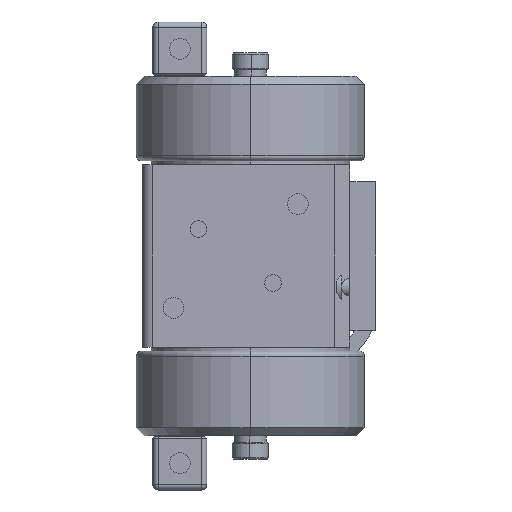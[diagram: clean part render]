
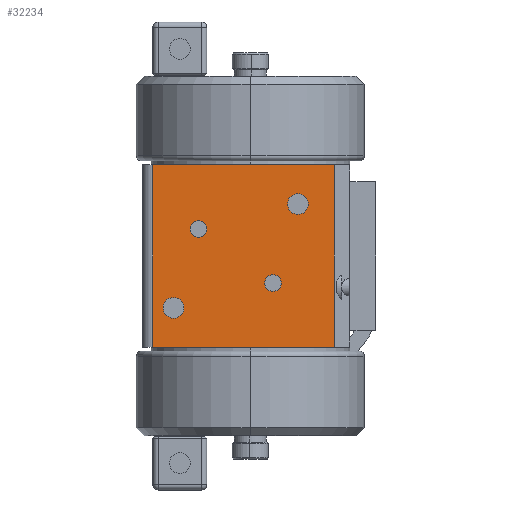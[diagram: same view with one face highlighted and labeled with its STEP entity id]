
A CAD part, left-side view. The second image highlights one B-rep face of the part: STEP entity #32234.
In plain terms, the highlighted planar face has unit normal (-1, 0, 0).
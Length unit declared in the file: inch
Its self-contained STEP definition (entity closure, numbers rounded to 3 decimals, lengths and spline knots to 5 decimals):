
#1392 = EDGE_LOOP ( 'NONE', ( #46005, #45911 ) ) ;
#1393 = EDGE_LOOP ( 'NONE', ( #46108, #45909 ) ) ;
#1394 = EDGE_LOOP ( 'NONE', ( #46068, #45948, #46051, #45887 ) ) ;
#1395 = EDGE_LOOP ( 'NONE', ( #46062, #45946 ) ) ;
#1397 = EDGE_LOOP ( 'NONE', ( #45892, #46204 ) ) ;
#3723 = EDGE_CURVE ( 'NONE', #36701, #36702, #44053, .T. ) ;
#3732 = EDGE_CURVE ( 'NONE', #36693, #36694, #44066, .T. ) ;
#3821 = EDGE_CURVE ( 'NONE', #36697, #36698, #44490, .T. ) ;
#3874 = EDGE_CURVE ( 'NONE', #36689, #36690, #44569, .T. ) ;
#10523 = DIRECTION ( 'NONE',  ( 1., 0., 0. ) ) ;
#10525 = PLANE ( 'NONE',  #12284 ) ;
#10526 = CARTESIAN_POINT ( 'NONE',  ( -2.398, 2.598, 2.202 ) ) ;
#10527 = DIRECTION ( 'NONE',  ( 0., 1., 0. ) ) ;
#11345 = FACE_BOUND ( 'NONE', #1397, .T. ) ;
#11346 = FACE_OUTER_BOUND ( 'NONE', #1394, .T. ) ;
#11351 = FACE_BOUND ( 'NONE', #1393, .T. ) ;
#11353 = FACE_BOUND ( 'NONE', #1392, .T. ) ;
#11354 = FACE_BOUND ( 'NONE', #1395, .T. ) ;
#12284 = AXIS2_PLACEMENT_3D ( 'NONE', #10526, #10523, #10527 ) ;
#14826 = AXIS2_PLACEMENT_3D ( 'NONE', #21502, #21503, #21504 ) ;
#14827 = AXIS2_PLACEMENT_3D ( 'NONE', #21505, #21506, #21507 ) ;
#14828 = AXIS2_PLACEMENT_3D ( 'NONE', #21510, #21511, #21512 ) ;
#14829 = AXIS2_PLACEMENT_3D ( 'NONE', #21515, #21516, #21517 ) ;
#18417 = LINE ( 'NONE', #21514, #18477 ) ;
#18467 = CIRCLE ( 'NONE', #14826, 0.2 ) ;
#18470 = CIRCLE ( 'NONE', #14827, 0.2 ) ;
#18471 = CIRCLE ( 'NONE', #14828, 0.25 ) ;
#18472 = CIRCLE ( 'NONE', #14829, 0.25 ) ;
#18473 = LINE ( 'NONE', #21508, #18475 ) ;
#18475 = VECTOR ( 'NONE', #21509, 39.37008 ) ;
#18476 = LINE ( 'NONE', #21520, #18481 ) ;
#18477 = VECTOR ( 'NONE', #21519, 39.37008 ) ;
#18479 = LINE ( 'NONE', #21522, #18485 ) ;
#18481 = VECTOR ( 'NONE', #21521, 39.37008 ) ;
#18485 = VECTOR ( 'NONE', #21523, 39.37008 ) ;
#21502 = CARTESIAN_POINT ( 'NONE',  ( -2.398, -0.5459, -0.65464 ) ) ;
#21503 = DIRECTION ( 'NONE',  ( -1., 0., 0. ) ) ;
#21504 = DIRECTION ( 'NONE',  ( 0., -1., 0. ) ) ;
#21505 = CARTESIAN_POINT ( 'NONE',  ( -2.398, 1.2499, 0.65464 ) ) ;
#21506 = DIRECTION ( 'NONE',  ( -1., 0., 0. ) ) ;
#21507 = DIRECTION ( 'NONE',  ( 0., -1., 0. ) ) ;
#21508 = CARTESIAN_POINT ( 'NONE',  ( -2.398, 2.598, -2.202 ) ) ;
#21509 = DIRECTION ( 'NONE',  ( 0., -1., 0. ) ) ;
#21510 = CARTESIAN_POINT ( 'NONE',  ( -2.398, 1.852, -1.25 ) ) ;
#21511 = DIRECTION ( 'NONE',  ( -1., 0., 0. ) ) ;
#21512 = DIRECTION ( 'NONE',  ( 0., -1., 0. ) ) ;
#21514 = CARTESIAN_POINT ( 'NONE',  ( -2.398, -2.023, -3.387 ) ) ;
#21515 = CARTESIAN_POINT ( 'NONE',  ( -2.398, -1.148, 1.25 ) ) ;
#21516 = DIRECTION ( 'NONE',  ( -1., 0., 0. ) ) ;
#21517 = DIRECTION ( 'NONE',  ( 0., -1., 0. ) ) ;
#21519 = DIRECTION ( 'NONE',  ( 0., 0., 1. ) ) ;
#21520 = CARTESIAN_POINT ( 'NONE',  ( -2.398, 2.598, 2.202 ) ) ;
#21521 = DIRECTION ( 'NONE',  ( 0., -1., 0. ) ) ;
#21522 = CARTESIAN_POINT ( 'NONE',  ( -2.398, 2.348, -2.202 ) ) ;
#21523 = DIRECTION ( 'NONE',  ( 0., 0., -1. ) ) ;
#26954 = CARTESIAN_POINT ( 'NONE',  ( -2.398, 2.348, -2.202 ) ) ;
#26978 = CARTESIAN_POINT ( 'NONE',  ( -2.398, -2.023, -2.202 ) ) ;
#26998 = CARTESIAN_POINT ( 'NONE',  ( -2.398, 2.348, 2.202 ) ) ;
#26999 = CARTESIAN_POINT ( 'NONE',  ( -2.398, -2.023, 2.202 ) ) ;
#27175 = CARTESIAN_POINT ( 'NONE',  ( -2.398, -0.3459, -0.65464 ) ) ;
#27176 = CARTESIAN_POINT ( 'NONE',  ( -2.398, -0.7459, -0.65464 ) ) ;
#27181 = CARTESIAN_POINT ( 'NONE',  ( -2.398, 1.4499, 0.65464 ) ) ;
#27183 = CARTESIAN_POINT ( 'NONE',  ( -2.398, 1.0499, 0.65464 ) ) ;
#27187 = CARTESIAN_POINT ( 'NONE',  ( -2.398, 2.102, -1.25 ) ) ;
#27189 = CARTESIAN_POINT ( 'NONE',  ( -2.398, 1.602, -1.25 ) ) ;
#27195 = CARTESIAN_POINT ( 'NONE',  ( -2.398, -0.898, 1.25 ) ) ;
#27196 = CARTESIAN_POINT ( 'NONE',  ( -2.398, -1.398, 1.25 ) ) ;
#32234 = ADVANCED_FACE ( 'NONE', ( #11351, #11354, #11345, #11353, #11346 ), #10525, .F. ) ;
#33390 = EDGE_CURVE ( 'NONE', #36690, #36689, #18467, .T. ) ;
#33391 = EDGE_CURVE ( 'NONE', #36694, #36693, #18470, .T. ) ;
#33392 = EDGE_CURVE ( 'NONE', #36698, #36697, #18471, .T. ) ;
#33393 = EDGE_CURVE ( 'NONE', #36702, #36701, #18472, .T. ) ;
#33394 = EDGE_CURVE ( 'NONE', #35292, #35316, #18473, .T. ) ;
#33395 = EDGE_CURVE ( 'NONE', #35316, #35337, #18417, .T. ) ;
#33396 = EDGE_CURVE ( 'NONE', #35336, #35337, #18476, .T. ) ;
#33397 = EDGE_CURVE ( 'NONE', #35336, #35292, #18479, .T. ) ;
#34984 = CARTESIAN_POINT ( 'NONE',  ( -2.398, -1.148, 1.25 ) ) ;
#34985 = DIRECTION ( 'NONE',  ( -1., 0., 0. ) ) ;
#34986 = DIRECTION ( 'NONE',  ( 0., -1., 0. ) ) ;
#35007 = CARTESIAN_POINT ( 'NONE',  ( -2.398, 1.2499, 0.65464 ) ) ;
#35008 = DIRECTION ( 'NONE',  ( -1., 0., 0. ) ) ;
#35009 = DIRECTION ( 'NONE',  ( 0., -1., 0. ) ) ;
#35292 = VERTEX_POINT ( 'NONE', #26954 ) ;
#35316 = VERTEX_POINT ( 'NONE', #26978 ) ;
#35336 = VERTEX_POINT ( 'NONE', #26998 ) ;
#35337 = VERTEX_POINT ( 'NONE', #26999 ) ;
#36689 = VERTEX_POINT ( 'NONE', #27175 ) ;
#36690 = VERTEX_POINT ( 'NONE', #27176 ) ;
#36693 = VERTEX_POINT ( 'NONE', #27181 ) ;
#36694 = VERTEX_POINT ( 'NONE', #27183 ) ;
#36697 = VERTEX_POINT ( 'NONE', #27187 ) ;
#36698 = VERTEX_POINT ( 'NONE', #27189 ) ;
#36701 = VERTEX_POINT ( 'NONE', #27195 ) ;
#36702 = VERTEX_POINT ( 'NONE', #27196 ) ;
#37653 = AXIS2_PLACEMENT_3D ( 'NONE', #34984, #34985, #34986 ) ;
#37658 = AXIS2_PLACEMENT_3D ( 'NONE', #35007, #35008, #35009 ) ;
#37702 = AXIS2_PLACEMENT_3D ( 'NONE', #39654, #39655, #39656 ) ;
#37726 = AXIS2_PLACEMENT_3D ( 'NONE', #39842, #39843, #39844 ) ;
#39654 = CARTESIAN_POINT ( 'NONE',  ( -2.398, 1.852, -1.25 ) ) ;
#39655 = DIRECTION ( 'NONE',  ( -1., 0., 0. ) ) ;
#39656 = DIRECTION ( 'NONE',  ( 0., -1., 0. ) ) ;
#39842 = CARTESIAN_POINT ( 'NONE',  ( -2.398, -0.5459, -0.65464 ) ) ;
#39843 = DIRECTION ( 'NONE',  ( -1., 0., 0. ) ) ;
#39844 = DIRECTION ( 'NONE',  ( 0., -1., 0. ) ) ;
#44053 = CIRCLE ( 'NONE', #37653, 0.25 ) ;
#44066 = CIRCLE ( 'NONE', #37658, 0.2 ) ;
#44490 = CIRCLE ( 'NONE', #37702, 0.25 ) ;
#44569 = CIRCLE ( 'NONE', #37726, 0.2 ) ;
#45887 = ORIENTED_EDGE ( 'NONE', *, *, #33397, .T. ) ;
#45892 = ORIENTED_EDGE ( 'NONE', *, *, #33392, .F. ) ;
#45909 = ORIENTED_EDGE ( 'NONE', *, *, #3874, .F. ) ;
#45911 = ORIENTED_EDGE ( 'NONE', *, *, #3723, .F. ) ;
#45946 = ORIENTED_EDGE ( 'NONE', *, *, #3732, .F. ) ;
#45948 = ORIENTED_EDGE ( 'NONE', *, *, #33395, .T. ) ;
#46005 = ORIENTED_EDGE ( 'NONE', *, *, #33393, .F. ) ;
#46051 = ORIENTED_EDGE ( 'NONE', *, *, #33396, .F. ) ;
#46062 = ORIENTED_EDGE ( 'NONE', *, *, #33391, .F. ) ;
#46068 = ORIENTED_EDGE ( 'NONE', *, *, #33394, .T. ) ;
#46108 = ORIENTED_EDGE ( 'NONE', *, *, #33390, .F. ) ;
#46204 = ORIENTED_EDGE ( 'NONE', *, *, #3821, .F. ) ;
